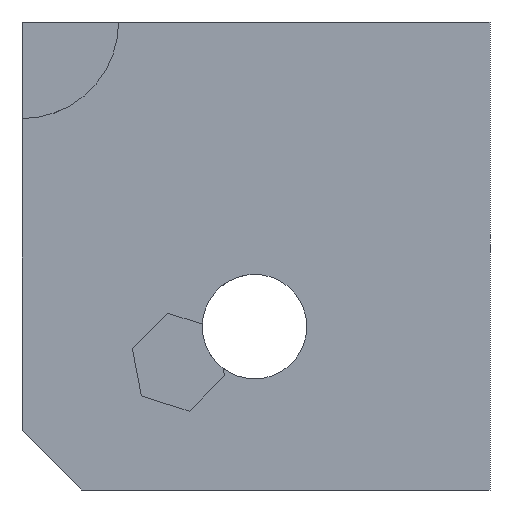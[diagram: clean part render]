
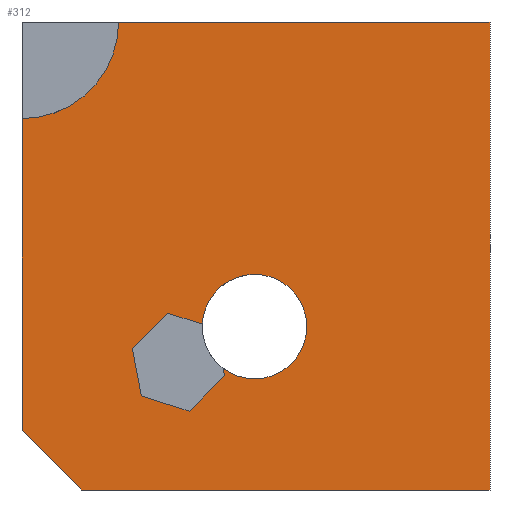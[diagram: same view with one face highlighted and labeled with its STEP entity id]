
A CAD part, left-side view. The second image highlights one B-rep face of the part: STEP entity #312.
In plain terms, the highlighted planar face has unit normal (-1, 0, 0).
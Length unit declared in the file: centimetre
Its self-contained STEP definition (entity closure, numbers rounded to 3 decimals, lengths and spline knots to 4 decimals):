
#9 = DIRECTION ( 'NONE',  ( 0., 0., -1. ) ) ;
#31 = CARTESIAN_POINT ( 'NONE',  ( 0., 1000., 1000. ) ) ;
#46 = EDGE_CURVE ( 'NONE', #1055, #1183, #236, .T. ) ;
#52 = VERTEX_POINT ( 'NONE', #1119 ) ;
#57 = ORIENTED_EDGE ( 'NONE', *, *, #1171, .T. ) ;
#61 = CARTESIAN_POINT ( 'NONE',  ( 0., 503.2493, 237.421 ) ) ;
#62 = DIRECTION ( 'NONE',  ( 0., -1., 0. ) ) ;
#76 = LINE ( 'NONE', #561, #259 ) ;
#106 = VERTEX_POINT ( 'NONE', #110 ) ;
#108 = EDGE_CURVE ( 'NONE', #320, #1055, #920, .T. ) ;
#110 = CARTESIAN_POINT ( 'NONE',  ( 0., 1000., 127.1881 ) ) ;
#111 = EDGE_LOOP ( 'NONE', ( #695, #1174, #241, #893, #268, #483, #967, #949, #358 ) ) ;
#124 = CARTESIAN_POINT ( 'NONE',  ( 0., 503.2493, 349.0888 ) ) ;
#129 = CARTESIAN_POINT ( 'NONE',  ( 0., 1000., 0. ) ) ;
#144 = DIRECTION ( 'NONE',  ( 0., -0.952, -0.305 ) ) ;
#163 = CARTESIAN_POINT ( 'NONE',  ( 0., 764.2562, 302.2018 ) ) ;
#170 = VERTEX_POINT ( 'NONE', #1142 ) ;
#176 = DIRECTION ( 'NONE',  ( -1., 0., 0. ) ) ;
#183 = DIRECTION ( 'NONE',  ( 0., 0., -1. ) ) ;
#206 = EDGE_CURVE ( 'NONE', #789, #975, #339, .T. ) ;
#210 = CARTESIAN_POINT ( 'NONE',  ( 0., 0., 1000. ) ) ;
#217 = VECTOR ( 'NONE', #183, 100. ) ;
#234 = DIRECTION ( 'NONE',  ( 0., 0.952, 0.305 ) ) ;
#236 = CIRCLE ( 'NONE', #552, 111.6678 ) ;
#241 = ORIENTED_EDGE ( 'NONE', *, *, #247, .F. ) ;
#247 = EDGE_CURVE ( 'NONE', #1183, #392, #715, .T. ) ;
#259 = VECTOR ( 'NONE', #566, 100. ) ;
#268 = ORIENTED_EDGE ( 'NONE', *, *, #108, .F. ) ;
#280 = PLANE ( 'NONE',  #1158 ) ;
#283 = ORIENTED_EDGE ( 'NONE', *, *, #565, .T. ) ;
#295 = ORIENTED_EDGE ( 'NONE', *, *, #1001, .T. ) ;
#297 = DIRECTION ( 'NONE',  ( 0., -0.707, 0.707 ) ) ;
#311 = LINE ( 'NONE', #1192, #556 ) ;
#312 = ADVANCED_FACE ( 'NONE', ( #1075, #380 ), #280, .F. ) ;
#320 = VERTEX_POINT ( 'NONE', #580 ) ;
#334 = CARTESIAN_POINT ( 'NONE',  ( 0., 567.3224, 244.1404 ) ) ;
#337 = CARTESIAN_POINT ( 'NONE',  ( 0., 586.4759, 345.2539 ) ) ;
#339 = LINE ( 'NONE', #737, #513 ) ;
#358 = ORIENTED_EDGE ( 'NONE', *, *, #839, .F. ) ;
#359 = DIRECTION ( 'NONE',  ( 0., 0., 1. ) ) ;
#361 = CIRCLE ( 'NONE', #1221, 111.6678 ) ;
#380 = FACE_OUTER_BOUND ( 'NONE', #1095, .T. ) ;
#383 = VECTOR ( 'NONE', #9, 100. ) ;
#386 = LINE ( 'NONE', #907, #217 ) ;
#392 = VERTEX_POINT ( 'NONE', #569 ) ;
#409 = CIRCLE ( 'NONE', #984, 206.4487 ) ;
#430 = EDGE_CURVE ( 'NONE', #392, #52, #361, .T. ) ;
#431 = DIRECTION ( 'NONE',  ( 0., 0.186, 0.983 ) ) ;
#442 = CARTESIAN_POINT ( 'NONE',  ( 0., 0., 1000. ) ) ;
#443 = CARTESIAN_POINT ( 'NONE',  ( 0., 503.2493, 349.0888 ) ) ;
#450 = VECTOR ( 'NONE', #812, 100. ) ;
#461 = LINE ( 'NONE', #163, #879 ) ;
#464 = DIRECTION ( 'NONE',  ( -1., 0., 0. ) ) ;
#473 = CARTESIAN_POINT ( 'NONE',  ( 0., 1000., 793.5513 ) ) ;
#483 = ORIENTED_EDGE ( 'NONE', *, *, #671, .F. ) ;
#484 = VERTEX_POINT ( 'NONE', #550 ) ;
#499 = ORIENTED_EDGE ( 'NONE', *, *, #206, .F. ) ;
#512 = LINE ( 'NONE', #210, #383 ) ;
#513 = VECTOR ( 'NONE', #62, 100. ) ;
#523 = LINE ( 'NONE', #337, #573 ) ;
#550 = CARTESIAN_POINT ( 'NONE',  ( 0., 764.2562, 302.2018 ) ) ;
#551 = VECTOR ( 'NONE', #931, 100. ) ;
#552 = AXIS2_PLACEMENT_3D ( 'NONE', #124, #1228, #1126 ) ;
#556 = VECTOR ( 'NONE', #297, 100. ) ;
#561 = CARTESIAN_POINT ( 'NONE',  ( 0., 1000., 127.1881 ) ) ;
#565 = EDGE_CURVE ( 'NONE', #1196, #106, #386, .T. ) ;
#566 = DIRECTION ( 'NONE',  ( 0., -0.707, -0.707 ) ) ;
#569 = CARTESIAN_POINT ( 'NONE',  ( 0., 503.2493, 460.7567 ) ) ;
#573 = VECTOR ( 'NONE', #234, 100. ) ;
#580 = CARTESIAN_POINT ( 'NONE',  ( 0., 567.3224, 244.1404 ) ) ;
#582 = EDGE_CURVE ( 'NONE', #975, #625, #512, .T. ) ;
#596 = CARTESIAN_POINT ( 'NONE',  ( 0., 688.5581, 377.8999 ) ) ;
#625 = VERTEX_POINT ( 'NONE', #887 ) ;
#635 = CARTESIAN_POINT ( 'NONE',  ( 0., 570.2852, 259.781 ) ) ;
#664 = DIRECTION ( 'NONE',  ( 0., 0., -1. ) ) ;
#671 = EDGE_CURVE ( 'NONE', #831, #320, #311, .T. ) ;
#675 = VERTEX_POINT ( 'NONE', #596 ) ;
#695 = ORIENTED_EDGE ( 'NONE', *, *, #756, .F. ) ;
#715 = CIRCLE ( 'NONE', #1285, 111.6678 ) ;
#718 = CARTESIAN_POINT ( 'NONE',  ( 0., 745.1027, 201.0884 ) ) ;
#731 = DIRECTION ( 'NONE',  ( 0., 0., 1. ) ) ;
#737 = CARTESIAN_POINT ( 'NONE',  ( 0., 1000., 1000. ) ) ;
#741 = DIRECTION ( 'NONE',  ( 0., -0.186, -0.983 ) ) ;
#750 = CARTESIAN_POINT ( 'NONE',  ( 0., 503.2493, 349.0888 ) ) ;
#756 = EDGE_CURVE ( 'NONE', #52, #675, #523, .T. ) ;
#759 = DIRECTION ( 'NONE',  ( 1., 0., 0. ) ) ;
#789 = VERTEX_POINT ( 'NONE', #1129 ) ;
#793 = VERTEX_POINT ( 'NONE', #1014 ) ;
#812 = DIRECTION ( 'NONE',  ( 0., 0.707, -0.707 ) ) ;
#830 = DIRECTION ( 'NONE',  ( -1., 0., 0. ) ) ;
#831 = VERTEX_POINT ( 'NONE', #840 ) ;
#839 = EDGE_CURVE ( 'NONE', #675, #484, #1137, .T. ) ;
#840 = CARTESIAN_POINT ( 'NONE',  ( 0., 643.0205, 168.4423 ) ) ;
#879 = VECTOR ( 'NONE', #741, 100. ) ;
#887 = CARTESIAN_POINT ( 'NONE',  ( 0., 0., 0. ) ) ;
#893 = ORIENTED_EDGE ( 'NONE', *, *, #46, .F. ) ;
#907 = CARTESIAN_POINT ( 'NONE',  ( 0., 1000., 1000. ) ) ;
#919 = LINE ( 'NONE', #718, #1030 ) ;
#920 = LINE ( 'NONE', #334, #986 ) ;
#931 = DIRECTION ( 'NONE',  ( 0., -1., 0. ) ) ;
#949 = ORIENTED_EDGE ( 'NONE', *, *, #1121, .F. ) ;
#959 = ORIENTED_EDGE ( 'NONE', *, *, #1104, .F. ) ;
#967 = ORIENTED_EDGE ( 'NONE', *, *, #1082, .F. ) ;
#975 = VERTEX_POINT ( 'NONE', #442 ) ;
#984 = AXIS2_PLACEMENT_3D ( 'NONE', #31, #176, #1253 ) ;
#986 = VECTOR ( 'NONE', #431, 100. ) ;
#1001 = EDGE_CURVE ( 'NONE', #170, #625, #1239, .T. ) ;
#1014 = CARTESIAN_POINT ( 'NONE',  ( 0., 745.1027, 201.0884 ) ) ;
#1030 = VECTOR ( 'NONE', #144, 100. ) ;
#1055 = VERTEX_POINT ( 'NONE', #635 ) ;
#1075 = FACE_BOUND ( 'NONE', #111, .T. ) ;
#1082 = EDGE_CURVE ( 'NONE', #793, #831, #919, .T. ) ;
#1095 = EDGE_LOOP ( 'NONE', ( #499, #959, #283, #57, #295, #1120 ) ) ;
#1104 = EDGE_CURVE ( 'NONE', #1196, #789, #409, .T. ) ;
#1119 = CARTESIAN_POINT ( 'NONE',  ( 0., 614.795, 354.3104 ) ) ;
#1120 = ORIENTED_EDGE ( 'NONE', *, *, #582, .F. ) ;
#1121 = EDGE_CURVE ( 'NONE', #484, #793, #461, .T. ) ;
#1126 = DIRECTION ( 'NONE',  ( 0., 0., 1. ) ) ;
#1129 = CARTESIAN_POINT ( 'NONE',  ( 0., 793.5513, 1000. ) ) ;
#1137 = LINE ( 'NONE', #1230, #450 ) ;
#1142 = CARTESIAN_POINT ( 'NONE',  ( 0., 872.8119, 0. ) ) ;
#1158 = AXIS2_PLACEMENT_3D ( 'NONE', #1279, #759, #664 ) ;
#1171 = EDGE_CURVE ( 'NONE', #106, #170, #76, .T. ) ;
#1174 = ORIENTED_EDGE ( 'NONE', *, *, #430, .F. ) ;
#1183 = VERTEX_POINT ( 'NONE', #61 ) ;
#1192 = CARTESIAN_POINT ( 'NONE',  ( 0., 643.0205, 168.4423 ) ) ;
#1196 = VERTEX_POINT ( 'NONE', #473 ) ;
#1221 = AXIS2_PLACEMENT_3D ( 'NONE', #750, #464, #359 ) ;
#1228 = DIRECTION ( 'NONE',  ( -1., 0., 0. ) ) ;
#1230 = CARTESIAN_POINT ( 'NONE',  ( 0., 688.5581, 377.8999 ) ) ;
#1239 = LINE ( 'NONE', #129, #551 ) ;
#1253 = DIRECTION ( 'NONE',  ( 0., 0., 1. ) ) ;
#1279 = CARTESIAN_POINT ( 'NONE',  ( 0., 1000., 1000. ) ) ;
#1285 = AXIS2_PLACEMENT_3D ( 'NONE', #443, #830, #731 ) ;
